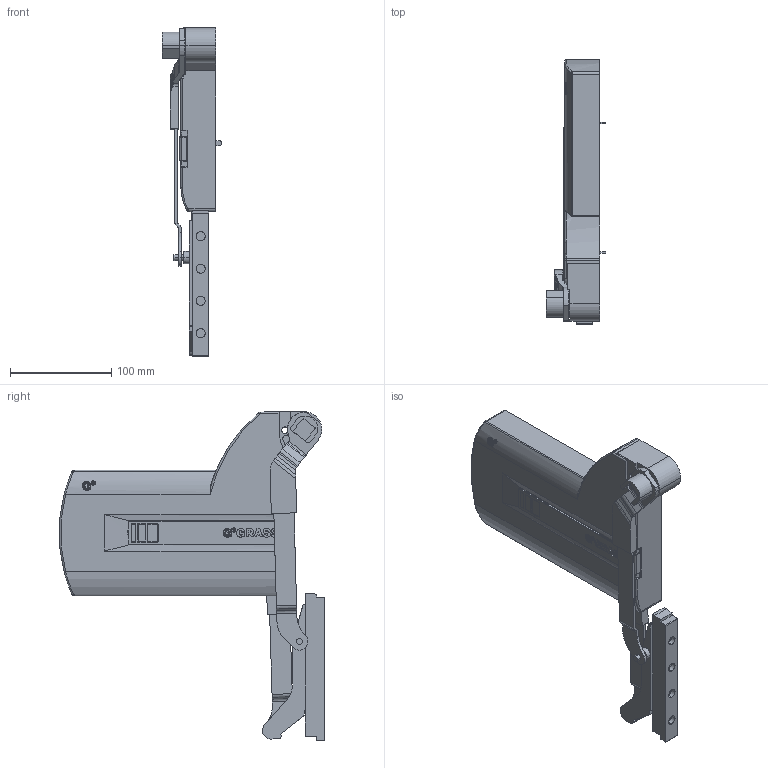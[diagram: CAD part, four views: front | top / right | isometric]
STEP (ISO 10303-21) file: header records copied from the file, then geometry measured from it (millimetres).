
FILE_DESCRIPTION (( 'STEP AP203' ), '1' );
FILE_NAME ('Kinvaro_L-80_Typ2_rechts_D2806012125~b.step', '2012-05-04T06:33:50', ( 'admin' ), ( 'Hewlett-Packard Company' ), 'SwSTEP 2.0', 'SolidWorks 2011', '' );
FILE_SCHEMA (( 'CONFIG_CONTROL_DESIGN' ));
Length unit declared in the file: millimetre
Products named in the file (1): Kinvaro_L-80_Typ2_rechts_D2806012125~b
Bounding box: 59 x 262.07 x 324.98 mm (x, y, z)
Volume: 1199473.8 mm3; surface area: 134558.5 mm2
Topology: 1 solids, 1 shells, 606 faces, 1679 edges, 1095 vertices
Faces by surface type: cylinder 321, plane 243, bspline 22, torus 18, sphere 2
Entity records: 20358 total; most frequent: CARTESIAN_POINT 4848, ORIENTED_EDGE 3352, DIRECTION 3186, EDGE_CURVE 1676, AXIS2_PLACEMENT_3D 1143, VERTEX_POINT 1095, LINE 900, VECTOR 900
